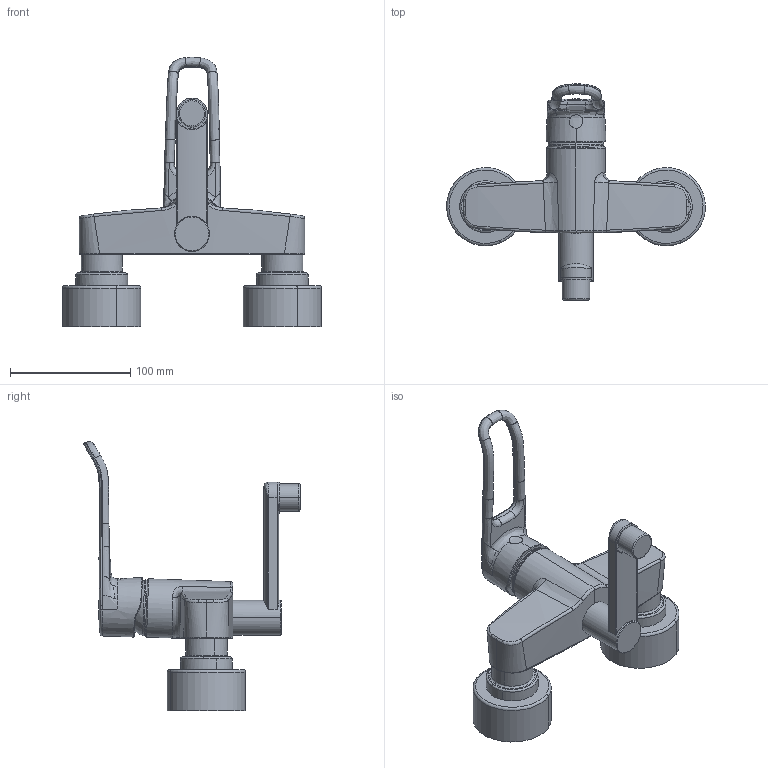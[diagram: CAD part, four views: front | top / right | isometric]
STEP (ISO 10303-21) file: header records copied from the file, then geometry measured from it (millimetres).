
FILE_DESCRIPTION (( 'STEP AP203' ), '1' );
FILE_NAME ('5616(2018).STEP', '2018-10-02T08:01:53', ( '' ), ( '' ), 'SwSTEP 2.0', 'SolidWorks 2016', '' );
FILE_SCHEMA (( 'CONFIG_CONTROL_DESIGN' ));
Length unit declared in the file: millimetre
Products named in the file (1): 5616(2018)
Bounding box: 214.94 x 179.51 x 223.53 mm (x, y, z)
Volume: 707877.6 mm3; surface area: 99287.7 mm2
Topology: 1 solids, 1 shells, 196 faces, 471 edges, 289 vertices
Faces by surface type: bspline 131, cylinder 37, plane 20, torus 4, cone 2, sphere 2
Entity records: 23706 total; most frequent: CARTESIAN_POINT 20043, ORIENTED_EDGE 942, EDGE_CURVE 471, DIRECTION 450, VERTEX_POINT 289, B_SPLINE_CURVE_WITH_KNOTS 259, EDGE_LOOP 210, ADVANCED_FACE 196
